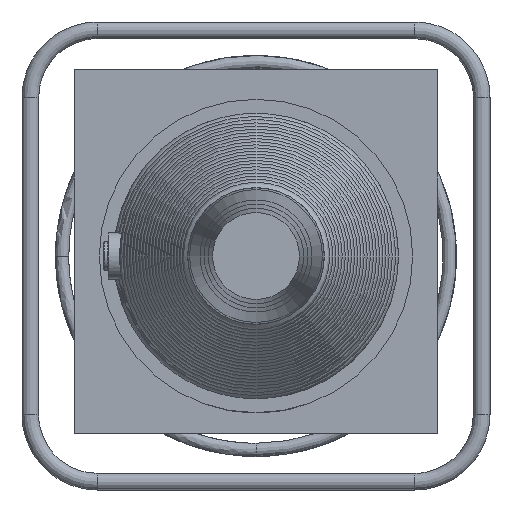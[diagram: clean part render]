
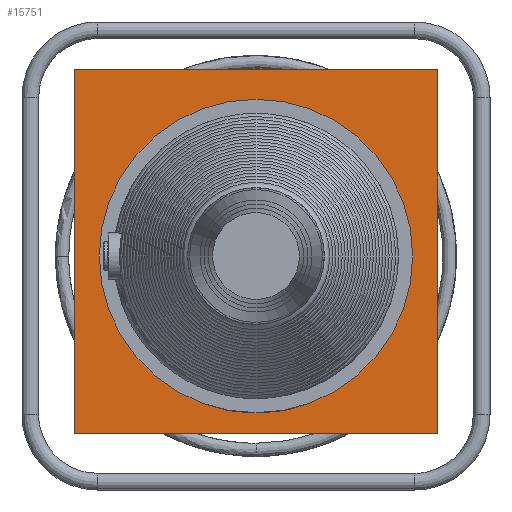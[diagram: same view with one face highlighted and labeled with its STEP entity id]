
A CAD part, left-side view. The second image highlights one B-rep face of the part: STEP entity #15751.
In plain terms, the highlighted planar face has unit normal (-1, 0, 0).
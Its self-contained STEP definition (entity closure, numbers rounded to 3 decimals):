
#1519=PLANE('',#16647);
#2437=LINE('',#40962,#3361);
#2441=LINE('',#40969,#3365);
#2444=LINE('',#40974,#3368);
#2447=LINE('',#40978,#3371);
#3361=VECTOR('',#19318,435.);
#3365=VECTOR('',#19324,435.);
#3368=VECTOR('',#19329,435.);
#3371=VECTOR('',#19334,435.);
#3655=FACE_BOUND('',#5671,.T.);
#4569=FACE_OUTER_BOUND('',#5670,.T.);
#5670=EDGE_LOOP('',(#14192,#14193,#14194,#14195));
#5671=EDGE_LOOP('',(#14196));
#6221=CIRCLE('',#16583,187.5);
#7742=VERTEX_POINT('',#36523);
#7770=VERTEX_POINT('',#40960);
#7771=VERTEX_POINT('',#40961);
#7773=VERTEX_POINT('',#40968);
#7774=VERTEX_POINT('',#40973);
#9910=EDGE_CURVE('',#7742,#7742,#6221,.T.);
#9940=EDGE_CURVE('',#7770,#7771,#2437,.T.);
#9944=EDGE_CURVE('',#7771,#7773,#2441,.T.);
#9947=EDGE_CURVE('',#7773,#7774,#2444,.T.);
#9950=EDGE_CURVE('',#7774,#7770,#2447,.T.);
#14192=ORIENTED_EDGE('',*,*,#9950,.T.);
#14193=ORIENTED_EDGE('',*,*,#9940,.T.);
#14194=ORIENTED_EDGE('',*,*,#9944,.T.);
#14195=ORIENTED_EDGE('',*,*,#9947,.T.);
#14196=ORIENTED_EDGE('',*,*,#9910,.T.);
#15751=ADVANCED_FACE('',(#4569,#3655),#1519,.T.);
#16583=AXIS2_PLACEMENT_3D('',#36524,#19190,#19191);
#16647=AXIS2_PLACEMENT_3D('',#40980,#19336,#19337);
#19190=DIRECTION('center_axis',(1.,0.,0.));
#19191=DIRECTION('ref_axis',(0.,1.,0.));
#19318=DIRECTION('',(0.,0.,-1.));
#19324=DIRECTION('',(0.,-1.,0.));
#19329=DIRECTION('',(0.,0.,1.));
#19334=DIRECTION('',(0.,1.,0.));
#19336=DIRECTION('center_axis',(-1.,0.,0.));
#19337=DIRECTION('ref_axis',(0.,0.,-1.));
#36523=CARTESIAN_POINT('',(-112.151,187.5,0.));
#36524=CARTESIAN_POINT('Origin',(-112.151,0.,
0.));
#40960=CARTESIAN_POINT('',(-112.151,217.5,222.753));
#40961=CARTESIAN_POINT('',(-112.151,217.5,-212.247));
#40962=CARTESIAN_POINT('',(-112.151,217.5,222.753));
#40968=CARTESIAN_POINT('',(-112.151,-217.5,-212.247));
#40969=CARTESIAN_POINT('',(-112.151,217.5,-212.247));
#40973=CARTESIAN_POINT('',(-112.151,-217.5,222.753));
#40974=CARTESIAN_POINT('',(-112.151,-217.5,-212.247));
#40978=CARTESIAN_POINT('',(-112.151,-217.5,222.753));
#40980=CARTESIAN_POINT('Origin',(-112.151,0.,5.253));
